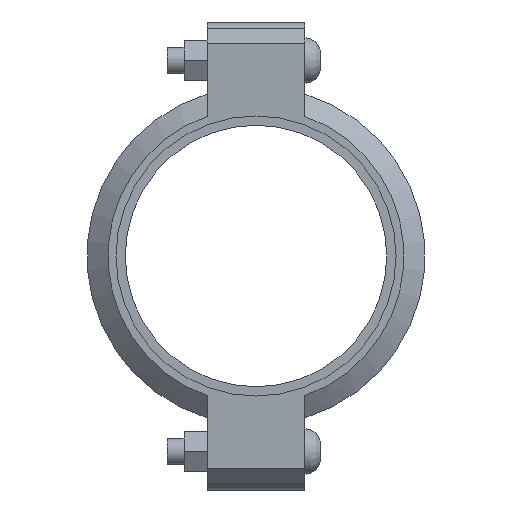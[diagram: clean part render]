
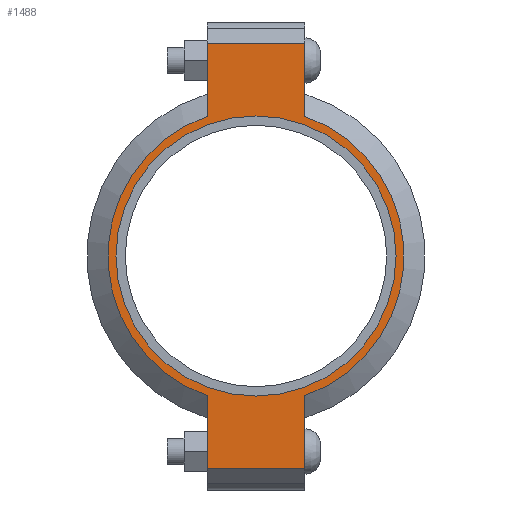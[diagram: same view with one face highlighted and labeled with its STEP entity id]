
A CAD part, left-side view. The second image highlights one B-rep face of the part: STEP entity #1488.
In plain terms, the highlighted planar face has unit normal (-1, 0, 0) as drawn and (0, 0, 1) by its records, which use the part's own axes.
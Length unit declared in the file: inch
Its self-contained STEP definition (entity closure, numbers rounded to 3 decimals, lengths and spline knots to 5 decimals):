
#168=LINE('',#2563,#259);
#176=LINE('',#2599,#267);
#183=LINE('',#2620,#274);
#192=LINE('',#2652,#283);
#193=LINE('',#2656,#284);
#194=LINE('',#2658,#285);
#259=VECTOR('',#2069,0.3937);
#267=VECTOR('',#2085,0.3937);
#274=VECTOR('',#2104,0.3937);
#283=VECTOR('',#2129,0.3937);
#284=VECTOR('',#2134,0.3937);
#285=VECTOR('',#2135,0.3937);
#337=FACE_BOUND('',#497,.T.);
#401=FACE_OUTER_BOUND('',#496,.T.);
#496=EDGE_LOOP('',(#1223,#1224,#1225,#1226,#1227,#1228,#1229,#1230));
#497=EDGE_LOOP('',(#1231));
#594=CIRCLE('',#1731,3.5);
#595=CIRCLE('',#1732,3.5);
#596=CIRCLE('',#1733,3.3125);
#699=VERTEX_POINT('',#2560);
#700=VERTEX_POINT('',#2562);
#711=VERTEX_POINT('',#2594);
#712=VERTEX_POINT('',#2598);
#719=VERTEX_POINT('',#2617);
#720=VERTEX_POINT('',#2619);
#730=VERTEX_POINT('',#2655);
#731=VERTEX_POINT('',#2657);
#732=VERTEX_POINT('',#2660);
#863=EDGE_CURVE('',#700,#699,#168,.T.);
#877=EDGE_CURVE('',#712,#711,#176,.T.);
#887=EDGE_CURVE('',#720,#719,#183,.T.);
#902=EDGE_CURVE('',#712,#699,#192,.T.);
#903=EDGE_CURVE('',#711,#720,#594,.T.);
#904=EDGE_CURVE('',#730,#719,#193,.T.);
#905=EDGE_CURVE('',#730,#731,#194,.T.);
#906=EDGE_CURVE('',#731,#700,#595,.T.);
#907=EDGE_CURVE('',#732,#732,#596,.T.);
#1223=ORIENTED_EDGE('',*,*,#902,.F.);
#1224=ORIENTED_EDGE('',*,*,#877,.T.);
#1225=ORIENTED_EDGE('',*,*,#903,.T.);
#1226=ORIENTED_EDGE('',*,*,#887,.T.);
#1227=ORIENTED_EDGE('',*,*,#904,.F.);
#1228=ORIENTED_EDGE('',*,*,#905,.T.);
#1229=ORIENTED_EDGE('',*,*,#906,.T.);
#1230=ORIENTED_EDGE('',*,*,#863,.T.);
#1231=ORIENTED_EDGE('',*,*,#907,.T.);
#1342=PLANE('',#1730);
#1488=ADVANCED_FACE('',(#401,#337),#1342,.T.);
#1730=AXIS2_PLACEMENT_3D('',#2653,#2130,#2131);
#1731=AXIS2_PLACEMENT_3D('',#2654,#2132,#2133);
#1732=AXIS2_PLACEMENT_3D('',#2659,#2136,#2137);
#1733=AXIS2_PLACEMENT_3D('',#2661,#2138,#2139);
#2069=DIRECTION('',(-1.,0.,0.));
#2085=DIRECTION('',(1.,0.,0.));
#2104=DIRECTION('',(1.,0.,0.));
#2129=DIRECTION('',(0.,1.,0.));
#2130=DIRECTION('center_axis',(0.,0.,1.));
#2131=DIRECTION('ref_axis',(1.,0.,0.));
#2132=DIRECTION('center_axis',(0.,0.,1.));
#2133=DIRECTION('ref_axis',(-1.,0.,0.));
#2134=DIRECTION('',(0.,-1.,0.));
#2135=DIRECTION('',(-1.,0.,0.));
#2136=DIRECTION('center_axis',(0.,0.,1.));
#2137=DIRECTION('ref_axis',(-1.,0.,0.));
#2138=DIRECTION('center_axis',(0.,0.,-1.));
#2139=DIRECTION('ref_axis',(-1.,0.,0.));
#2560=CARTESIAN_POINT('',(-5.035,1.156,1.065));
#2562=CARTESIAN_POINT('',(-3.30358,1.156,1.065));
#2563=CARTESIAN_POINT('',(-5.535,1.156,1.065));
#2594=CARTESIAN_POINT('',(-3.30358,-1.156,1.065));
#2598=CARTESIAN_POINT('',(-5.035,-1.156,1.065));
#2599=CARTESIAN_POINT('',(5.535,-1.156,1.065));
#2617=CARTESIAN_POINT('',(5.035,-1.156,1.065));
#2619=CARTESIAN_POINT('',(3.30358,-1.156,1.065));
#2620=CARTESIAN_POINT('',(5.535,-1.156,1.065));
#2652=CARTESIAN_POINT('',(-5.035,0.578,1.065));
#2653=CARTESIAN_POINT('Origin',(0.,0.,1.065));
#2654=CARTESIAN_POINT('Origin',(0.,0.,1.065));
#2655=CARTESIAN_POINT('',(5.035,1.156,1.065));
#2656=CARTESIAN_POINT('',(5.035,-0.578,1.065));
#2657=CARTESIAN_POINT('',(3.30358,1.156,1.065));
#2658=CARTESIAN_POINT('',(-5.535,1.156,1.065));
#2659=CARTESIAN_POINT('Origin',(0.,0.,1.065));
#2660=CARTESIAN_POINT('',(3.3125,0.,1.065));
#2661=CARTESIAN_POINT('Origin',(0.,0.,1.065));
